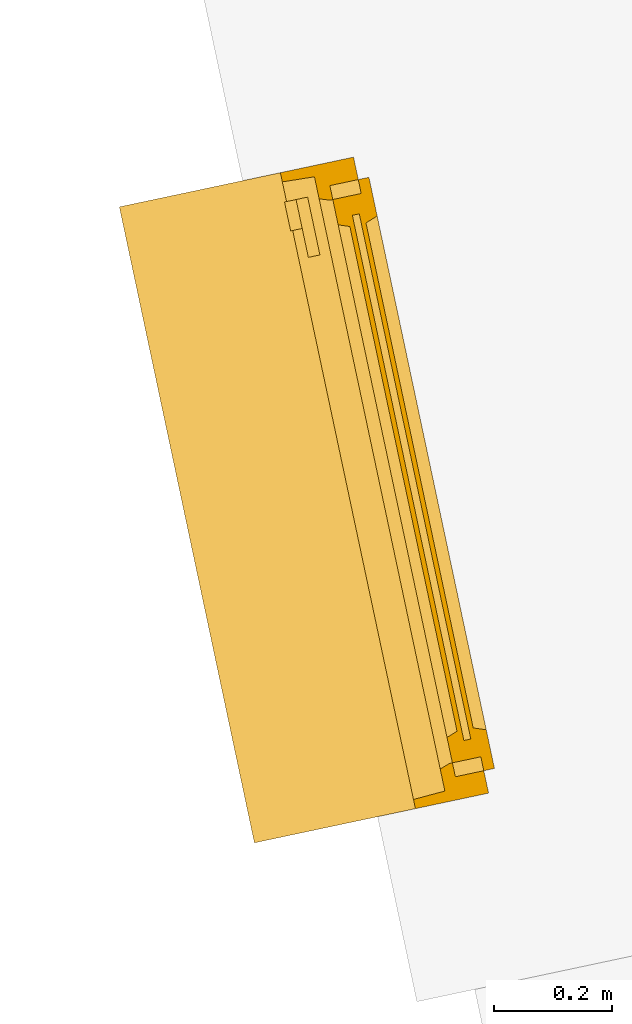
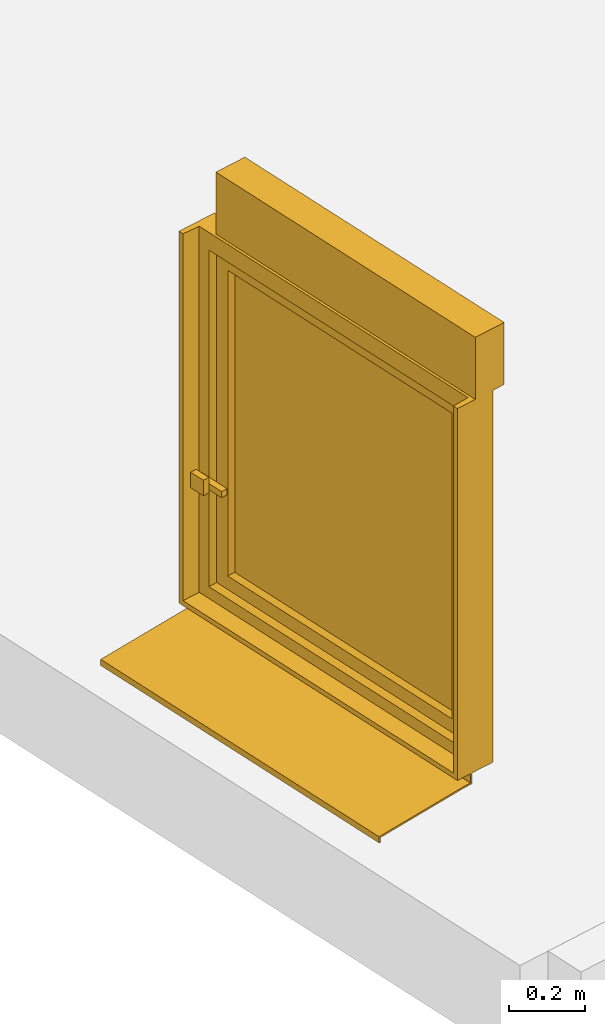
# One storey, part 10 of 11: 1 window.
"""IFC2X3 building model written with IfcOpenShell, lengths in centimetres."""

from ifc_helpers import new_model, entity, si_unit, converted_unit, derived_unit, direction, frame, origin, place, context, subcontext, project, spatial, faceted_brep, source, transform, mapped, material, material_list, type_object, type_shapes, element, save


model = new_model("IFC2X3")

# Units and contexts
model_context = context("Model", 3, precision=0.001, world=origin(), true_north=direction((6.12303176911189e-17, 1.0)))
body_context = subcontext(model_context, "Body", "Model", "MODEL_VIEW")
ifc_project = project(units=[si_unit("LENGTHUNIT", "METRE", prefix="CENTI"), si_unit("AREAUNIT", "SQUARE_METRE"), si_unit("VOLUMEUNIT", "CUBIC_METRE"), converted_unit("PLANEANGLEUNIT", "DEGREE", entity("IfcRatioMeasure", 0.0174532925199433), si_unit("PLANEANGLEUNIT", "RADIAN"), dimensions=[0, 0, 0, 0, 0, 0, 0]), si_unit("MASSUNIT", "GRAM", prefix="KILO"), derived_unit("MASSDENSITYUNIT", [(si_unit("MASSUNIT", "GRAM", prefix="KILO"), 1), (si_unit("LENGTHUNIT", "METRE"), -3)]), derived_unit("IONCONCENTRATIONUNIT", [(si_unit("MASSUNIT", "GRAM", prefix="KILO"), 1), (si_unit("LENGTHUNIT", "METRE"), -3)]), derived_unit("MOMENTOFINERTIAUNIT", [(si_unit("LENGTHUNIT", "METRE"), 4)]), si_unit("TIMEUNIT", "SECOND"), si_unit("FREQUENCYUNIT", "HERTZ"), si_unit("THERMODYNAMICTEMPERATUREUNIT", "DEGREE_CELSIUS"), derived_unit("THERMALTRANSMITTANCEUNIT", [(si_unit("MASSUNIT", "GRAM", prefix="KILO"), 1), (si_unit("THERMODYNAMICTEMPERATUREUNIT", "KELVIN"), -1), (si_unit("TIMEUNIT", "SECOND"), -3)]), derived_unit("THERMALCONDUCTANCEUNIT", [(si_unit("MASSUNIT", "GRAM", prefix="KILO"), 1), (si_unit("THERMODYNAMICTEMPERATUREUNIT", "KELVIN"), -1), (si_unit("TIMEUNIT", "SECOND"), -3), (si_unit("LENGTHUNIT", "METRE"), 1)]), derived_unit("VOLUMETRICFLOWRATEUNIT", [(si_unit("LENGTHUNIT", "METRE"), 3), (si_unit("TIMEUNIT", "SECOND"), -1)]), derived_unit("MASSFLOWRATEUNIT", [(si_unit("MASSUNIT", "GRAM", prefix="KILO"), 1), (si_unit("TIMEUNIT", "SECOND"), -1)]), derived_unit("ROTATIONALFREQUENCYUNIT", [(si_unit("TIMEUNIT", "SECOND"), -1)]), si_unit("ELECTRICCURRENTUNIT", "AMPERE"), si_unit("ELECTRICVOLTAGEUNIT", "VOLT"), si_unit("POWERUNIT", "WATT"), si_unit("FORCEUNIT", "NEWTON", prefix="KILO"), si_unit("ILLUMINANCEUNIT", "LUX"), si_unit("LUMINOUSFLUXUNIT", "LUMEN"), si_unit("LUMINOUSINTENSITYUNIT", "CANDELA"), derived_unit("USERDEFINED", [(si_unit("MASSUNIT", "GRAM", prefix="KILO"), -1), (si_unit("LENGTHUNIT", "METRE"), -2), (si_unit("TIMEUNIT", "SECOND"), 3), (si_unit("LUMINOUSFLUXUNIT", "LUMEN"), 1)]), derived_unit("USERDEFINED", [(si_unit("MASSUNIT", "GRAM", prefix="KILO"), 1), (si_unit("TIMEUNIT", "SECOND"), -3), (si_unit("LENGTHUNIT", "METRE"), 3), (si_unit("ELECTRICCURRENTUNIT", "AMPERE"), -2)]), derived_unit("SOUNDPOWERUNIT", [(si_unit("MASSUNIT", "GRAM", prefix="KILO"), 1), (si_unit("TIMEUNIT", "SECOND"), -3), (si_unit("LENGTHUNIT", "METRE"), 2)]), derived_unit("SOUNDPRESSUREUNIT", [(si_unit("MASSUNIT", "GRAM", prefix="KILO"), 1), (si_unit("LENGTHUNIT", "METRE"), -1), (si_unit("TIMEUNIT", "SECOND"), -2)]), derived_unit("LINEARVELOCITYUNIT", [(si_unit("LENGTHUNIT", "METRE"), 1), (si_unit("TIMEUNIT", "SECOND"), -1)]), si_unit("PRESSUREUNIT", "PASCAL"), derived_unit("USERDEFINED", [(si_unit("MASSUNIT", "GRAM", prefix="KILO"), 1), (si_unit("LENGTHUNIT", "METRE"), -2), (si_unit("TIMEUNIT", "SECOND"), -2)]), derived_unit("LINEARFORCEUNIT", [(si_unit("MASSUNIT", "GRAM", prefix="KILO"), 1), (si_unit("TIMEUNIT", "SECOND"), -2)]), derived_unit("PLANARFORCEUNIT", [(si_unit("MASSUNIT", "GRAM", prefix="KILO"), 1), (si_unit("LENGTHUNIT", "METRE"), -1), (si_unit("TIMEUNIT", "SECOND"), -2)]), derived_unit("SPECIFICHEATCAPACITYUNIT", [(si_unit("THERMODYNAMICTEMPERATUREUNIT", "KELVIN"), -1), (si_unit("LENGTHUNIT", "METRE"), 2), (si_unit("TIMEUNIT", "SECOND"), -2)]), derived_unit("HEATINGVALUEUNIT", [(si_unit("LENGTHUNIT", "METRE"), 2), (si_unit("TIMEUNIT", "SECOND"), -2)]), derived_unit("VAPORPERMEABILITYUNIT", [(si_unit("LENGTHUNIT", "METRE"), -1), (si_unit("TIMEUNIT", "SECOND"), 1)]), derived_unit("DYNAMICVISCOSITYUNIT", [(si_unit("MASSUNIT", "GRAM", prefix="KILO"), 1), (si_unit("TIMEUNIT", "SECOND"), -1), (si_unit("LENGTHUNIT", "METRE"), -1)]), derived_unit("THERMALEXPANSIONCOEFFICIENTUNIT", [(si_unit("THERMODYNAMICTEMPERATUREUNIT", "KELVIN"), -1)]), derived_unit("MODULUSOFELASTICITYUNIT", [(si_unit("MASSUNIT", "GRAM", prefix="KILO"), 1), (si_unit("LENGTHUNIT", "METRE"), -1), (si_unit("TIMEUNIT", "SECOND"), -2)]), derived_unit("ISOTHERMALMOISTURECAPACITYUNIT", [(si_unit("LENGTHUNIT", "METRE"), 3), (si_unit("MASSUNIT", "GRAM", prefix="KILO"), -1)]), derived_unit("MOISTUREDIFFUSIVITYUNIT", [(si_unit("TIMEUNIT", "SECOND"), -1), (si_unit("LENGTHUNIT", "METRE"), 2)])], contexts=[model_context])

# Site, building, storey
site_placement = place(None, frame((14083.8920177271, -6853.25409548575, 6900.0), z_axis=(0.0, 0.0, 1.0), x_axis=(0.978188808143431, 0.207717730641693, 0.0)))
site = spatial("IfcSite", under=ifc_project, at=site_placement, Name="Surface", CompositionType="ELEMENT")
building_placement = place(site_placement, origin())
building = spatial("IfcBuilding", under=site, at=building_placement, CompositionType="ELEMENT")
storey_placement = place(building_placement, frame((0.0, 0.0, 17.0)))
storey = spatial("IfcBuildingStorey", under=building, at=storey_placement, Name="Rez de chaussée", CompositionType="ELEMENT", Elevation=17.0000000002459)

# Window
ifc_material_1 = material(Name="<Unnamed>")
ifc_material_2 = material(Name="Fenêtre - Vitrage")
ifc_material_3 = material(Name="__ PVC_blanc (menuiseries)")
ifc_material_list = material_list([ifc_material_1, ifc_material_2, ifc_material_3])
window_style = type_object("IfcWindowStyle", Name="*PVC 1 VANTAIL1:OB 110x120 +VR", ConstructionType="NOTDEFINED", OperationType="NOTDEFINED", ParameterTakesPrecedence=False, Sizeable=False, material=ifc_material_list)
shared_shape = source(origin(), body_context, "Body", "Brep", [
    faceted_brep([(200.0, 16.0, 48.6149554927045), (200.0, 18.0, 48.6149554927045), (190.0, 18.0, 48.6149554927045), (190.0, 16.0, 48.6149554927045), (200.0, 16.0, 46.6149554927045), (190.0, 16.0, 46.6149554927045), (190.0, 18.0, 46.6149554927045), (200.0, 18.0, 46.6149554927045)], [[[0, 1, 2, 3]], [[4, 5, 6, 7]], [[3, 5, 4, 0]], [[2, 6, 5, 3]], [[1, 7, 6, 2]], [[0, 4, 7, 1]]]),
    faceted_brep([(200.0, 18.0, 50.6149554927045), (200.0, 20.0, 50.6149554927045), (195.0, 20.0, 50.6149554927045), (195.0, 18.0, 50.6149554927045), (200.0, 18.0, 45.6149554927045), (195.0, 18.0, 45.6149554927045), (195.0, 20.0, 45.6149554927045), (200.0, 20.0, 45.6149554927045)], [[[0, 1, 2, 3]], [[4, 5, 6, 7]], [[3, 5, 4, 0]], [[2, 6, 5, 3]], [[1, 7, 6, 2]], [[0, 4, 7, 1]]]),
    faceted_brep([(195.416484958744, 7.25296298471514, 116.031440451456), (195.416484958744, 8.03717831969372, 116.031440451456), (104.583515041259, 8.03717831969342, 116.031440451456), (104.583515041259, 7.25296298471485, 116.031440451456), (195.416484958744, 7.25296298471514, 15.1984705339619), (104.583515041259, 7.25296298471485, 15.1984705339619), (104.583515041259, 8.03717831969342, 15.1984705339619), (195.416484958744, 8.03717831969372, 15.1984705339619)], [[[0, 1, 2, 3]], [[4, 5, 6, 7]], [[3, 5, 4, 0]], [[2, 6, 5, 3]], [[1, 7, 6, 2]], [[0, 4, 7, 1]]]),
    faceted_brep([(104.583515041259, 9.23973889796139, 116.031440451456), (104.583515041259, 9.23973889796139, 15.1984705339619), (195.416484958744, 9.23973889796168, 15.1984705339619), (195.416484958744, 9.23973889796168, 116.031440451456), (104.583515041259, 10.0397388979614, 116.031440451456), (104.583515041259, 10.0397388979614, 15.1984705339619), (195.416484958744, 10.0397388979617, 116.031440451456), (195.416484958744, 10.0397388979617, 15.1984705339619)], [[[0, 1, 2, 3]], [[4, 5, 1, 0]], [[6, 7, 5, 4]], [[3, 2, 7, 6]], [[2, 1, 5, 7]], [[3, 6, 4, 0]]]),
    faceted_brep([(104.583515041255, 7.25296298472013, 116.031440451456), (104.583515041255, 7.25296298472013, 15.1984705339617), (104.583515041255, 10.0397388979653, 15.1984705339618), (104.583515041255, 10.0397388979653, 116.031440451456), (105.569164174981, 5.15897052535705, 115.04579131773), (105.569164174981, 5.15897052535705, 16.184119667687), (106.331315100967, 7.25296298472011, 16.9462705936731), (106.331315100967, 7.25296298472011, 114.283640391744), (98.8763363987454, 7.00296298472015, 121.738619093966), (98.8763363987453, 7.00296298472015, 9.4912918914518), (98.8763363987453, 5.15897052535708, 9.49129189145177), (98.8763363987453, 5.15897052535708, 121.738619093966), (101.286336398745, 11.9191241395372, 119.328619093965), (101.286336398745, 11.9191241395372, 11.9012918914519), (101.286336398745, 7.00296298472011, 11.9012918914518), (101.286336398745, 7.00296298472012, 119.328619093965), (106.354038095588, 10.0397388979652, 114.260917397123), (106.354038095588, 10.0397388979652, 16.9689935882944), (105.669997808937, 11.9191241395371, 16.284953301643), (105.669997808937, 11.9191241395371, 114.944957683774), (195.416484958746, 7.25296298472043, 15.1984705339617), (195.416484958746, 10.0397388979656, 15.1984705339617), (194.430835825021, 5.15897052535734, 16.184119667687), (193.668684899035, 7.25296298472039, 16.9462705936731), (201.123663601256, 7.00296298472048, 9.4912918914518), (201.123663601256, 5.15897052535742, 9.49129189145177), (198.713663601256, 11.9191241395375, 11.9012918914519), (198.713663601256, 7.00296298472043, 11.9012918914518), (193.645961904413, 10.0397388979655, 16.9689935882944), (194.330002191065, 11.9191241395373, 16.284953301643), (195.416484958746, 7.25296298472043, 116.031440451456), (195.416484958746, 10.0397388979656, 116.031440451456), (194.430835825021, 5.15897052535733, 115.04579131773), (193.668684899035, 7.25296298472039, 114.283640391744), (201.123663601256, 7.00296298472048, 121.738619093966), (201.123663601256, 5.15897052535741, 121.738619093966), (198.713663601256, 11.9191241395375, 119.328619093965), (198.713663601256, 7.00296298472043, 119.328619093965), (193.645961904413, 10.0397388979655, 114.260917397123), (194.330002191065, 11.9191241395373, 114.944957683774)], [[[0, 1, 2, 3]], [[4, 5, 6, 7]], [[8, 9, 10, 11]], [[12, 13, 14, 15]], [[16, 17, 18, 19]], [[1, 20, 21, 2]], [[5, 22, 23, 6]], [[9, 24, 25, 10]], [[13, 26, 27, 14]], [[17, 28, 29, 18]], [[20, 30, 31, 21]], [[22, 32, 33, 23]], [[24, 34, 35, 25]], [[26, 36, 37, 27]], [[28, 38, 39, 29]], [[30, 0, 3, 31]], [[7, 6, 23, 33], [1, 0, 30, 20]], [[32, 4, 7, 33]], [[11, 10, 25, 35], [5, 4, 32, 22]], [[34, 8, 11, 35]], [[15, 14, 27, 37], [9, 8, 34, 24]], [[36, 12, 15, 37]], [[19, 18, 29, 39], [13, 12, 36, 26]], [[38, 16, 19, 39]], [[3, 2, 21, 31], [17, 16, 38, 28]]], outer=[[True], [True], [True], [True], [True], [True], [True], [True], [True], [True], [True], [True], [True], [True], [True], [True], [False, True], [True], [True, False], [True], [False, True], [True], [False, True], [True], [True, False]]),
    faceted_brep([(95.0, 19.6482873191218, 125.614955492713), (95.0, 7.0, 125.614955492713), (205.0, 7.0, 125.614955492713), (205.0, 19.6482873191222, 125.614955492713), (203.409026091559, 19.6482873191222, 125.614955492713), (203.121178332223, 14.155824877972, 125.614955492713), (96.8788216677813, 14.1558248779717, 125.614955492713), (96.5909739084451, 19.648287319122, 125.614955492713), (205.0, 7.0, 5.6149554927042), (205.0, 19.6482873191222, 5.61495549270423), (95.0, 19.6482873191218, 5.61495549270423), (96.5909739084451, 19.648287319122, 7.20592940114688), (203.409026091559, 19.6482873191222, 7.20592940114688), (203.121178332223, 14.155824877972, 7.49377716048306), (96.8788216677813, 14.1558248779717, 7.49377716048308), (100.688342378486, 14.1558248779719, 11.3032978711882), (199.311657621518, 14.155824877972, 11.3032978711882), (199.311657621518, 14.155824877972, 119.926613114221), (100.688342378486, 14.1558248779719, 119.926613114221), (198.713663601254, 12.4191241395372, 11.9012918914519), (198.713663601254, 12.4191241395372, 119.328619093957), (198.713663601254, 11.9191241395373, 11.9012918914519), (198.713663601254, 11.9191241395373, 119.328619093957), (201.123076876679, 11.9191241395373, 9.49187861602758), (201.123076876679, 11.9191241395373, 121.738032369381), (98.8769231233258, 11.9191241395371, 121.738032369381), (98.8769231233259, 11.9191241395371, 9.49187861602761), (101.28633639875, 11.919124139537, 11.9012918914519), (101.28633639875, 11.919124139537, 119.328619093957), (201.123076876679, 7.0, 9.49187861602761), (201.123076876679, 7.0, 121.738032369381), (95.0, 7.0, 5.6149554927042), (98.8769231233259, 7.0, 9.49187861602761), (98.8769231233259, 7.0, 121.738032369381), (101.28633639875, 12.4191241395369, 119.328619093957), (101.28633639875, 12.4191241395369, 11.9012918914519)], [[[0, 1, 2, 3, 4, 5, 6, 7]], [[8, 9, 3, 2]], [[3, 9, 10, 0, 7, 11, 12, 4]], [[4, 12, 13, 5]], [[5, 13, 14, 6], [15, 16, 17, 18]], [[19, 20, 17, 16]], [[21, 22, 20, 19]], [[23, 24, 25, 26], [21, 27, 28, 22]], [[29, 30, 24, 23]], [[1, 31, 8, 2], [29, 32, 33, 30]], [[33, 25, 24, 30]], [[28, 34, 20, 22]], [[17, 20, 34, 18]], [[26, 32, 29, 23]], [[19, 35, 27, 21]], [[15, 35, 19, 16]], [[11, 14, 13, 12]], [[8, 31, 10, 9]], [[25, 33, 32, 26]], [[35, 34, 28, 27]], [[15, 18, 34, 35]], [[14, 11, 7, 6]], [[10, 31, 1, 0]]]),
    faceted_brep([(95.0, 14.5000000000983, 2.11559678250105), (95.0, 14.5000000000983, 5.61495549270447), (95.0, 15.0, 5.61495549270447), (95.0, 15.0, 2.61495549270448), (95.0, 17.0240531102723, 2.61495549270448), (95.0, 47.5000000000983, 0.501201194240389), (95.0, 47.5000000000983, -1.4653209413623), (95.0, 47.0, -1.4653209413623), (95.0, 47.0, 0.0346790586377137), (95.0, 16.9974883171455, 2.11559678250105), (205.0, 14.5000000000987, 2.11559678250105), (205.0, 16.9974883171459, 2.11559678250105), (205.0, 47.0, 0.0346790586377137), (205.0, 47.0, -1.4653209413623), (205.0, 47.5000000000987, -1.4653209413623), (205.0, 47.5000000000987, 0.501201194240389), (205.0, 17.0240531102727, 2.61495549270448), (205.0, 15.0, 2.61495549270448), (205.0, 15.0, 5.61495549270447), (205.0, 14.5000000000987, 5.61495549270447)], [[[0, 1, 2, 3, 4, 5, 6, 7, 8, 9]], [[10, 11, 12, 13, 14, 15, 16, 17, 18, 19]], [[1, 0, 10, 19]], [[2, 1, 19, 18]], [[3, 2, 18, 17]], [[4, 3, 17, 16]], [[5, 4, 16, 15]], [[6, 5, 15, 14]], [[7, 6, 14, 13]], [[8, 7, 13, 12]], [[9, 8, 12, 11]], [[0, 9, 11, 10]]]),
    faceted_brep([(95.0, 3.0, 145.614955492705), (95.0, 4.30000000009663, 145.614955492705), (95.0, 4.30000000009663, 125.614955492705), (95.0, 3.0, 125.614955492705), (197.500000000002, 3.0, 145.614955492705), (197.500000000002, 3.0, 125.614955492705), (197.500000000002, 4.30000000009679, 125.614955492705), (197.500000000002, 4.30000000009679, 145.614955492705)], [[[0, 1, 2, 3]], [[4, 5, 6, 7]], [[7, 1, 0, 4]], [[6, 2, 1, 7]], [[5, 3, 2, 6]], [[4, 0, 3, 5]]]),
    faceted_brep([(95.0, 4.30000000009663, 145.614955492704), (95.0, 13.3000000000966, 145.614955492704), (95.0, 13.3000000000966, 125.614955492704), (95.0, 4.30000000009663, 125.614955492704), (197.500000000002, 4.30000000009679, 145.614955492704), (197.500000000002, 4.30000000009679, 125.614955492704), (197.500000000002, 13.3000000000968, 125.614955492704), (197.500000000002, 13.3000000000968, 145.614955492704)], [[[0, 1, 2, 3]], [[4, 5, 6, 7]], [[7, 1, 0, 4]], [[6, 2, 1, 7]], [[5, 3, 2, 6]], [[4, 0, 3, 5]]]),
])
type_shapes(window_style, [shared_shape])
window_placement = place(storey_placement, frame((-8037.7551432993, 14794.6724778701, 34.3850445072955), z_axis=(0.0, 0.0, 1.0), x_axis=(0.0, 1.0, 0.0)))
element("IfcWindow", 1, at=window_placement, inside=storey, type_object=window_style, material=ifc_material_list, Name="*PVC 1 VANTAIL1:OB 110x120 +VR", ObjectType="*PVC 1 VANTAIL1:OB 110x120 +VR", OverallHeight=147.080276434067, OverallWidth=115.000000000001, context=body_context, shape_type="MappedRepresentation", body=[
    mapped(shared_shape, transform((0.0, 0.0, 0.0), scale=1.0)),
])

save(model, "model.ifc")
